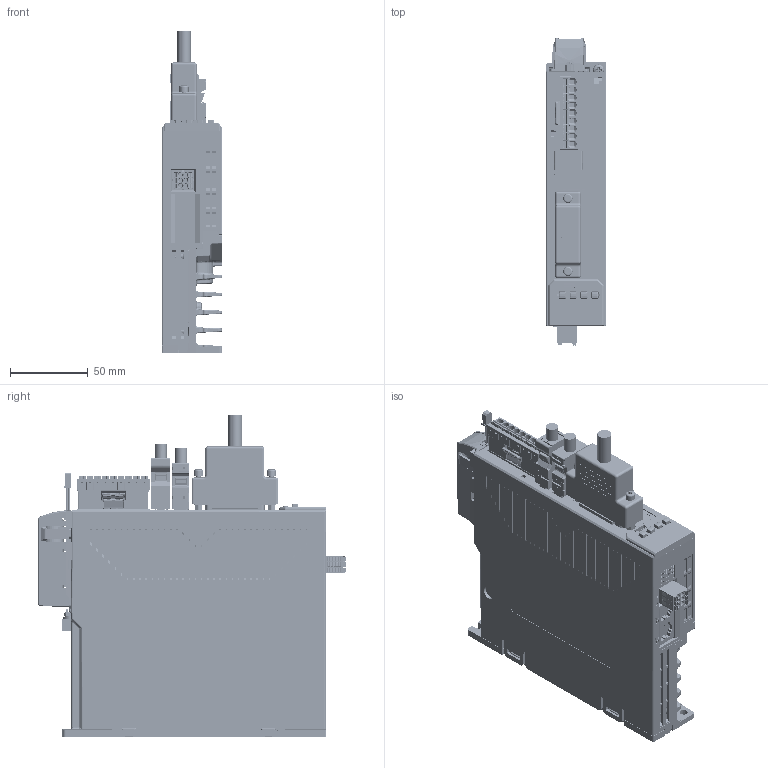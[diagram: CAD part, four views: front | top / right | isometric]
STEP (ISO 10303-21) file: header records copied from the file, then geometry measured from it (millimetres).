
FILE_DESCRIPTION((''),'2;1');
FILE_NAME('SD900-3R3A-PA_ASM','2025-09-28T',('v5489'),(''),'CREO PARAMETRIC BY PTC INC, 2018360','CREO PARAMETRIC BY PTC INC, 2018360','');
FILE_SCHEMA(('AP203_CONFIGURATION_CONTROLLED_3D_DESIGN_OF_MECHANICAL_PARTS_AND_ASSEMBLIES_MIM_LF { 1 0 10303 403 2 1 2 }'));
Products named in the file (23): SD900-PA-A_1_1_1; SD900-PA-A_1_1_2; SD900-PA-A_1_1_3; SD900-PA-A_1_1_4; SD900-PA-A_1_1_5; SD900-PA-A_1_1_6; SD900-PA-A_1_1_7; SD900-PA-A_1_1_ASM; SD900-DCH-P001_284; SD900-DCH-N001_98; 14505_50_1; 14505_50_2; 14505_50_3; 14505_50_ASM; S6-C4A_31; SD900-DCH-P_ASM_535_ASM; SD900-DCH-P_ASM_ASM; F9AP-5_0-09P-A; 5006540609; 1394SM_10P_; DB-44-1; 15EDGKNH-3_5-04P-14-00A_H_; SD900-3R3A-PA_ASM
Assembly tree (22 placements, depth 5):
  SD900-3R3A-PA_ASM
    SD900-PA-A_1_1_ASM
      SD900-PA-A_1_1_1
      SD900-PA-A_1_1_2
      SD900-PA-A_1_1_3
      SD900-PA-A_1_1_4
      SD900-PA-A_1_1_5
      SD900-PA-A_1_1_6
      SD900-PA-A_1_1_7
    SD900-DCH-P_ASM_ASM
      SD900-DCH-P_ASM_535_ASM
        SD900-DCH-P001_284
        SD900-DCH-N001_98
        14505_50_ASM
          14505_50_1
          14505_50_2
          14505_50_3
        S6-C4A_31
    F9AP-5_0-09P-A
    5006540609
    1394SM_10P_
    DB-44-1
    15EDGKNH-3_5-04P-14-00A_H_
Bounding box: 39 x 198.5 x 206.95 mm (x, y, z)
Volume: 68603.7 mm3; surface area: 219310.8 mm2
Topology: 17 solids, 47 shells, 11692 faces, 31527 edges, 20090 vertices
Faces by surface type: plane 7037, cylinder 2827, bspline 505, cone 389, extrusion 373, torus 364, sphere 196, revolution 1
Entity records: 456769 total; most frequent: CARTESIAN_POINT 108285, ORIENTED_EDGE 62624, DIRECTION 54529, EDGE_CURVE 31345, VECTOR 22200, LINE 21827, VERTEX_POINT 20090, AXIS2_PLACEMENT_3D 16164
